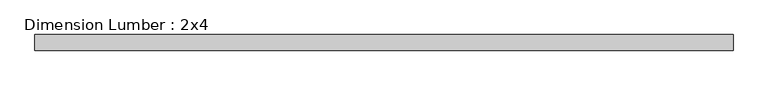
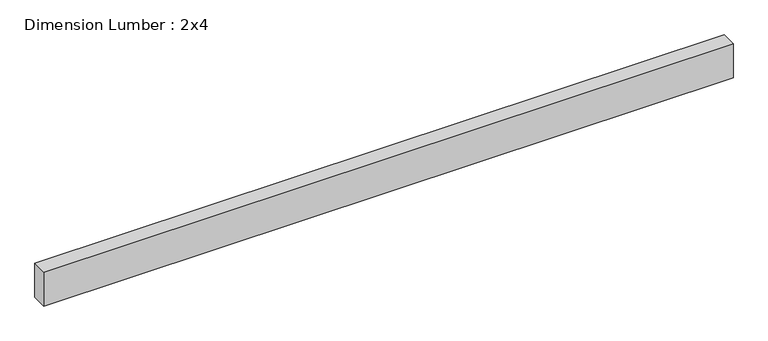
"""IFC4 building model written with IfcOpenShell, lengths in millimetres: beam geometry, Dimension Lumber : 2x4."""

from ifc_helpers import new_model, si_unit, frame, origin, place, context, project, spatial, polyline, outline, extrude, source, transform, mapped, element, save


def dimension_lumber_2x4_0fa4f316(model_context):
    return source(origin(), model_context, "Body", "SweptSolid", [
        extrude(outline(polyline([(851.8258301, 19.05), (851.8258301, -19.05), (-851.8258301, -19.05), (-851.8258301, 19.05), (851.8258301, 19.05)])), frame((0.0, 0.0, -44.45), z_axis=(0.0, 0.0, 1.0), x_axis=(1.0, 0.0, 0.0)), (0.0, 0.0, 1.0), 88.9),
    ])


if __name__ == "__main__":
    model = new_model("IFC4")
    model_context = context("Model", 3, world=origin())
    ifc_project = project(units=[si_unit("LENGTHUNIT", "METRE", prefix="MILLI")], contexts=[model_context])
    site = spatial("IfcSite", under=ifc_project)
    building = spatial("IfcBuilding", under=site)
    placement = place(None, origin())
    dimension_lumber_2x4_shape = dimension_lumber_2x4_0fa4f316(model_context)
    element("IfcBeam", 1, ObjectType="Dimension Lumber : 2x4", at=placement, inside=building, context=model_context, shape_type="MappedRepresentation", body=[
        mapped(dimension_lumber_2x4_shape, transform((0.0, 0.0, 0.0), x_axis=(1.0, 0.0, 0.0), y_axis=(0.0, 1.0, 0.0), z_axis=(0.0, 0.0, 1.0))),
    ])
    save(model, "model.ifc")
